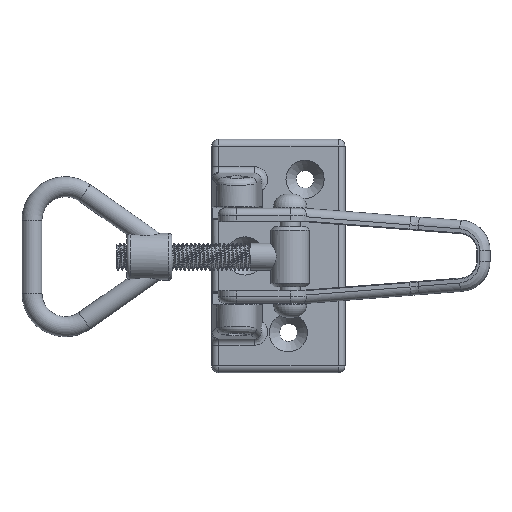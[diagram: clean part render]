
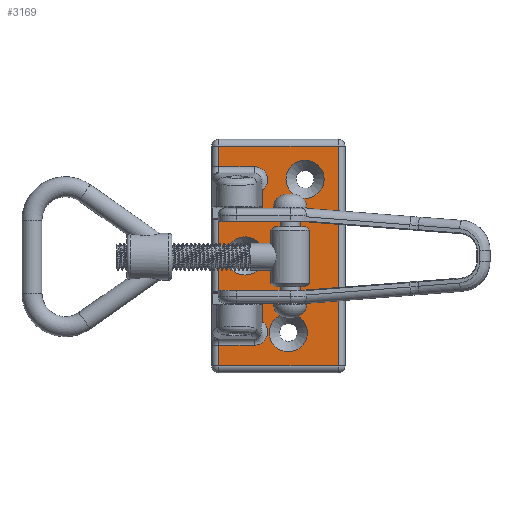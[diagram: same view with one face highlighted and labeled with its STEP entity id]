
A CAD part, top view. The second image highlights one B-rep face of the part: STEP entity #3169.
In plain terms, the highlighted planar face has unit normal (0, 0, 1).
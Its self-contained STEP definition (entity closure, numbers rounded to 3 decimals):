
#132=CIRCLE('',#3468,5.735);
#133=CIRCLE('',#3469,5.735);
#134=CIRCLE('',#3470,5.735);
#495=LINE('',#5152,#667);
#496=LINE('',#5155,#668);
#497=LINE('',#5157,#669);
#498=LINE('',#5161,#670);
#499=LINE('',#5163,#671);
#500=LINE('',#5165,#672);
#501=LINE('',#5167,#673);
#502=LINE('',#5169,#674);
#503=LINE('',#5171,#675);
#504=LINE('',#5173,#676);
#505=LINE('',#5177,#677);
#506=LINE('',#5179,#678);
#667=VECTOR('',#4018,1000.);
#668=VECTOR('',#4019,1000.);
#669=VECTOR('',#4020,1000.);
#670=VECTOR('',#4023,1000.);
#671=VECTOR('',#4024,1000.);
#672=VECTOR('',#4025,1000.);
#673=VECTOR('',#4026,1000.);
#674=VECTOR('',#4027,1000.);
#675=VECTOR('',#4028,1000.);
#676=VECTOR('',#4029,1000.);
#677=VECTOR('',#4032,1000.);
#678=VECTOR('',#4033,1000.);
#874=ORIENTED_EDGE('',*,*,#1806,.T.);
#875=ORIENTED_EDGE('',*,*,#1807,.T.);
#876=ORIENTED_EDGE('',*,*,#1808,.T.);
#877=ORIENTED_EDGE('',*,*,#1809,.T.);
#878=ORIENTED_EDGE('',*,*,#1810,.T.);
#879=ORIENTED_EDGE('',*,*,#1811,.T.);
#880=ORIENTED_EDGE('',*,*,#1812,.T.);
#881=ORIENTED_EDGE('',*,*,#1813,.T.);
#882=ORIENTED_EDGE('',*,*,#1814,.T.);
#883=ORIENTED_EDGE('',*,*,#1815,.T.);
#884=ORIENTED_EDGE('',*,*,#1816,.T.);
#885=ORIENTED_EDGE('',*,*,#1817,.T.);
#886=ORIENTED_EDGE('',*,*,#1818,.T.);
#887=ORIENTED_EDGE('',*,*,#1819,.T.);
#888=ORIENTED_EDGE('',*,*,#1820,.T.);
#889=ORIENTED_EDGE('',*,*,#1821,.T.);
#890=ORIENTED_EDGE('',*,*,#1822,.T.);
#1806=EDGE_CURVE('',#2268,#2268,#132,.T.);
#1807=EDGE_CURVE('',#2269,#2269,#133,.T.);
#1808=EDGE_CURVE('',#2270,#2270,#134,.T.);
#1809=EDGE_CURVE('',#2271,#2272,#495,.F.);
#1810=EDGE_CURVE('',#2272,#2273,#496,.T.);
#1811=EDGE_CURVE('',#2273,#2274,#497,.T.);
#1812=EDGE_CURVE('',#2274,#2275,#2501,.T.);
#1813=EDGE_CURVE('',#2275,#2276,#498,.T.);
#1814=EDGE_CURVE('',#2276,#2277,#499,.F.);
#1815=EDGE_CURVE('',#2277,#2278,#500,.F.);
#1816=EDGE_CURVE('',#2278,#2279,#501,.F.);
#1817=EDGE_CURVE('',#2279,#2280,#502,.F.);
#1818=EDGE_CURVE('',#2280,#2281,#503,.F.);
#1819=EDGE_CURVE('',#2281,#2282,#504,.T.);
#1820=EDGE_CURVE('',#2282,#2283,#2502,.T.);
#1821=EDGE_CURVE('',#2283,#2284,#505,.T.);
#1822=EDGE_CURVE('',#2284,#2271,#506,.T.);
#2268=VERTEX_POINT('',#5147);
#2269=VERTEX_POINT('',#5149);
#2270=VERTEX_POINT('',#5151);
#2271=VERTEX_POINT('',#5153);
#2272=VERTEX_POINT('',#5154);
#2273=VERTEX_POINT('',#5156);
#2274=VERTEX_POINT('',#5158);
#2275=VERTEX_POINT('',#5160);
#2276=VERTEX_POINT('',#5162);
#2277=VERTEX_POINT('',#5164);
#2278=VERTEX_POINT('',#5166);
#2279=VERTEX_POINT('',#5168);
#2280=VERTEX_POINT('',#5170);
#2281=VERTEX_POINT('',#5172);
#2282=VERTEX_POINT('',#5174);
#2283=VERTEX_POINT('',#5176);
#2284=VERTEX_POINT('',#5178);
#2501=ELLIPSE('',#3471,4.054,4.);
#2502=ELLIPSE('',#3472,4.054,4.);
#2580=EDGE_LOOP('',(#874));
#2581=EDGE_LOOP('',(#875));
#2582=EDGE_LOOP('',(#876));
#2583=EDGE_LOOP('',(#877,#878,#879,#880,#881,#882,#883,#884,#885,#886,#887,
#888,#889,#890));
#2851=FACE_BOUND('',#2580,.T.);
#2852=FACE_BOUND('',#2581,.T.);
#2853=FACE_BOUND('',#2582,.T.);
#2854=FACE_BOUND('',#2583,.T.);
#3117=PLANE('',#3467);
#3169=ADVANCED_FACE('',(#2851,#2852,#2853,#2854),#3117,.F.);
#3467=AXIS2_PLACEMENT_3D('',#5145,#4010,#4011);
#3468=AXIS2_PLACEMENT_3D('',#5146,#4012,#4013);
#3469=AXIS2_PLACEMENT_3D('',#5148,#4014,#4015);
#3470=AXIS2_PLACEMENT_3D('',#5150,#4016,#4017);
#3471=AXIS2_PLACEMENT_3D('',#5159,#4021,#4022);
#3472=AXIS2_PLACEMENT_3D('',#5175,#4030,#4031);
#4010=DIRECTION('',(0.,0.,-1.));
#4011=DIRECTION('',(-1.,0.,0.));
#4012=DIRECTION('',(0.,0.,-1.));
#4013=DIRECTION('',(0.,1.,0.));
#4014=DIRECTION('',(0.,0.,-1.));
#4015=DIRECTION('',(0.,1.,0.));
#4016=DIRECTION('',(0.,0.,-1.));
#4017=DIRECTION('',(0.,1.,0.));
#4018=DIRECTION('',(1.,0.,0.));
#4019=DIRECTION('',(0.,-1.,0.));
#4020=DIRECTION('',(-1.,0.,0.));
#4021=DIRECTION('',(0.,0.,-1.));
#4022=DIRECTION('',(-0.675,-0.737,0.));
#4023=DIRECTION('',(0.,1.,0.));
#4024=DIRECTION('',(1.,0.,0.));
#4025=DIRECTION('',(0.,1.,0.));
#4026=DIRECTION('',(-1.,0.,0.));
#4027=DIRECTION('',(0.,-1.,0.));
#4028=DIRECTION('',(1.,0.,0.));
#4029=DIRECTION('',(0.,-1.,0.));
#4030=DIRECTION('',(0.,0.,-1.));
#4031=DIRECTION('',(-0.675,0.737,0.));
#4032=DIRECTION('',(-1.,0.,0.));
#4033=DIRECTION('',(0.,1.,0.));
#5145=CARTESIAN_POINT('',(0.,0.,0.));
#5146=CARTESIAN_POINT('',(23.,-8.,0.));
#5147=CARTESIAN_POINT('',(23.,-2.265,0.));
#5148=CARTESIAN_POINT('',(-23.,-3.,0.));
#5149=CARTESIAN_POINT('',(-23.,2.735,0.));
#5150=CARTESIAN_POINT('',(0.,10.,0.));
#5151=CARTESIAN_POINT('',(0.,15.735,0.));
#5152=CARTESIAN_POINT('',(0.,18.,0.));
#5153=CARTESIAN_POINT('',(10.8,18.,0.));
#5154=CARTESIAN_POINT('',(-10.8,18.,0.));
#5155=CARTESIAN_POINT('',(-10.8,0.,0.));
#5156=CARTESIAN_POINT('',(-10.8,4.823,0.));
#5157=CARTESIAN_POINT('',(0.,4.823,0.));
#5158=CARTESIAN_POINT('',(-19.591,4.823,0.));
#5159=CARTESIAN_POINT('',(-22.765,7.257,0.));
#5160=CARTESIAN_POINT('',(-26.79,7.204,0.));
#5161=CARTESIAN_POINT('',(-26.79,20.,0.));
#5162=CARTESIAN_POINT('',(-26.79,18.,0.));
#5163=CARTESIAN_POINT('',(0.,18.,0.));
#5164=CARTESIAN_POINT('',(-33.,18.,0.));
#5165=CARTESIAN_POINT('',(-33.,0.,0.));
#5166=CARTESIAN_POINT('',(-33.,-18.,0.));
#5167=CARTESIAN_POINT('',(0.,-18.,0.));
#5168=CARTESIAN_POINT('',(33.,-18.,0.));
#5169=CARTESIAN_POINT('',(33.,0.,0.));
#5170=CARTESIAN_POINT('',(33.,18.,0.));
#5171=CARTESIAN_POINT('',(0.,18.,0.));
#5172=CARTESIAN_POINT('',(26.79,18.,0.));
#5173=CARTESIAN_POINT('',(26.79,0.,0.));
#5174=CARTESIAN_POINT('',(26.79,7.204,0.));
#5175=CARTESIAN_POINT('',(22.765,7.257,0.));
#5176=CARTESIAN_POINT('',(19.591,4.823,0.));
#5177=CARTESIAN_POINT('',(0.,4.823,0.));
#5178=CARTESIAN_POINT('',(10.8,4.823,0.));
#5179=CARTESIAN_POINT('',(10.8,0.,0.));
